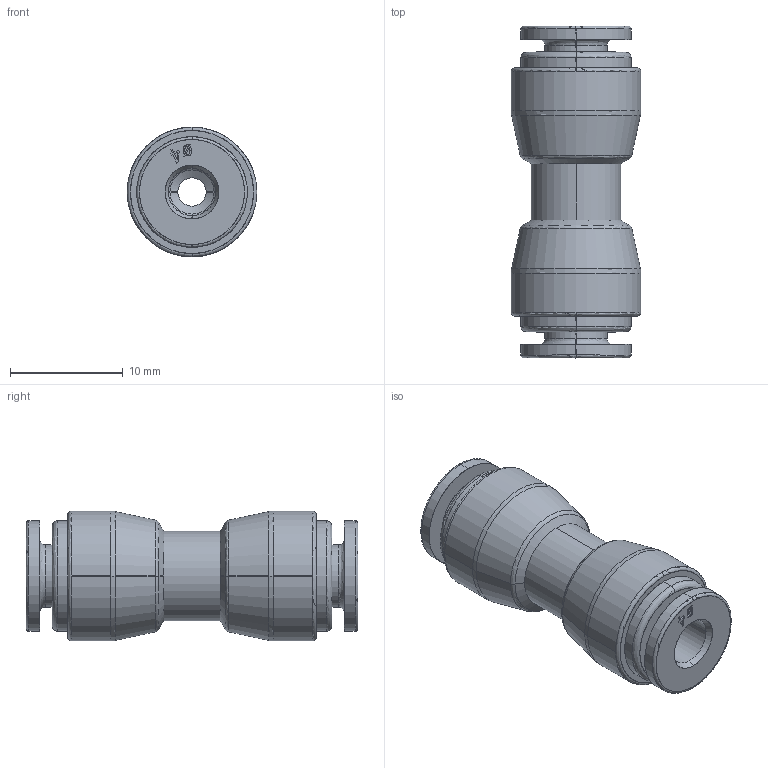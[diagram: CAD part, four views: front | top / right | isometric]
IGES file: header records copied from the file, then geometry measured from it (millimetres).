
Start section: SolidWorks IGES file using analytic representation for surfaces
Global section: file name: K:\Disegni Esecutivi\SERIE 53000\53000 Assiemi\53040\Iges\5304000002A.IGS; native system: SolidWorks 2020; preprocessor: SolidWorks 2020; author: cad06; date: 230306.113128; units: millimetre
Bounding box: 11.5 x 29.4 x 11.5 mm (x, y, z)
Surface area: 1676.8 mm2 (no closed solid volume)
Topology: 0 solids, 0 shells, 158 faces, 1484 edges, 1484 vertices
Faces by surface type: bspline 118, revolution 40
